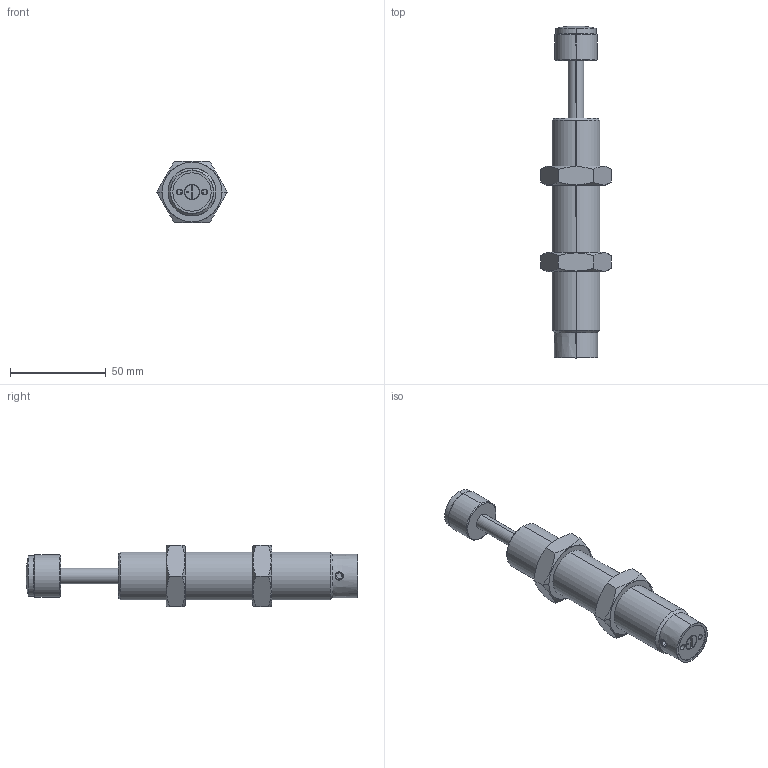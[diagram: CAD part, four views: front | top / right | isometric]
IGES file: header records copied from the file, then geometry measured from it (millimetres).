
Start section: SolidWorks IGES file using analytic representation for surfaces
Bounding box: 36.95 x 173.04 x 32 mm (x, y, z)
Surface area: 18751.2 mm2 (no closed solid volume)
Topology: 0 solids, 0 shells, 96 faces, 1920 edges, 1917 vertices
Faces by surface type: revolution 58, bspline 38
